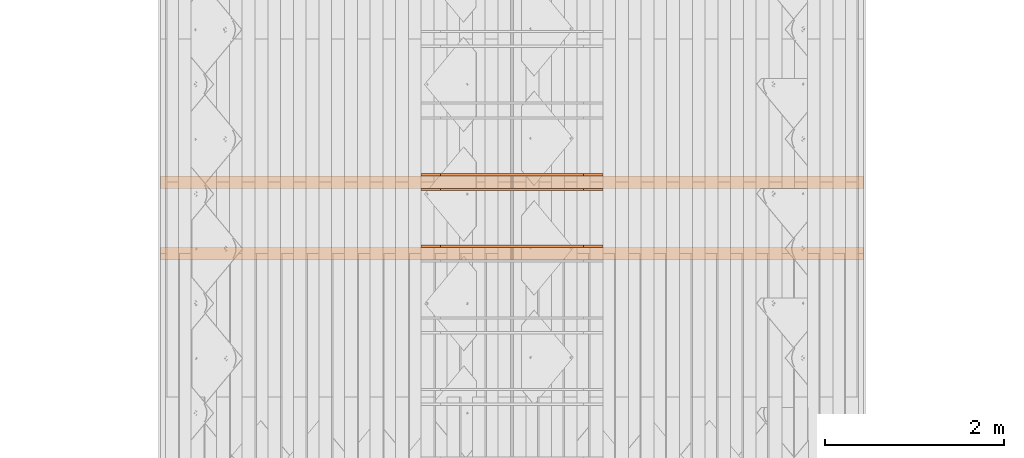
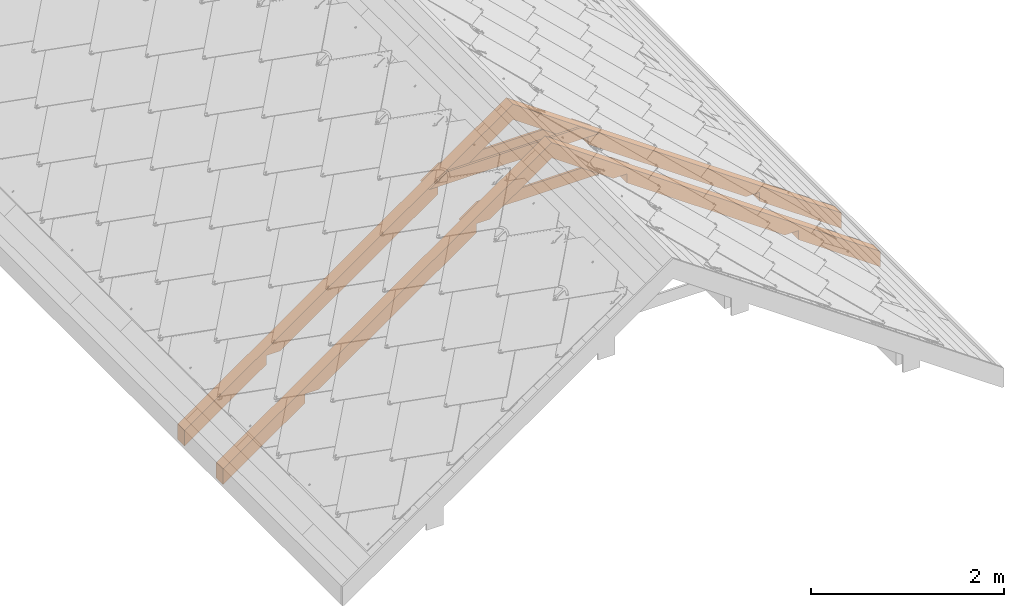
# One storey, part 34 of 151: 5 proxies, 1 element without a shape of its own.
"""IFC2X3 building model written with IfcOpenShell, lengths in millimetres."""

from ifc_helpers import new_model, entity, si_unit, converted_unit, derived_unit, direction, frame, origin, place, context, subcontext, project, spatial, polyline, outline, extrude, source, transform, mapped, material, type_object, type_shapes, element, aggregate, save


model = new_model("IFC2X3")

# Units and contexts
model_context = context("Model", 3, precision=0.01, world=origin(), true_north=direction((6.12303176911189e-17, 1.0)))
body_context = subcontext(model_context, "Body", "Model", "MODEL_VIEW")
ifc_project = project(units=[si_unit("LENGTHUNIT", "METRE", prefix="MILLI"), si_unit("AREAUNIT", "SQUARE_METRE"), si_unit("VOLUMEUNIT", "CUBIC_METRE"), converted_unit("PLANEANGLEUNIT", "DEGREE", entity("IfcRatioMeasure", 0.0174532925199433), si_unit("PLANEANGLEUNIT", "RADIAN"), dimensions=[0, 0, 0, 0, 0, 0, 0]), si_unit("MASSUNIT", "GRAM", prefix="KILO"), derived_unit("MASSDENSITYUNIT", [(si_unit("MASSUNIT", "GRAM", prefix="KILO"), 1), (si_unit("LENGTHUNIT", "METRE"), -3)]), si_unit("TIMEUNIT", "SECOND"), si_unit("FREQUENCYUNIT", "HERTZ"), si_unit("THERMODYNAMICTEMPERATUREUNIT", "DEGREE_CELSIUS"), derived_unit("THERMALTRANSMITTANCEUNIT", [(si_unit("MASSUNIT", "GRAM", prefix="KILO"), 1), (si_unit("THERMODYNAMICTEMPERATUREUNIT", "KELVIN"), -1), (si_unit("TIMEUNIT", "SECOND"), -3)]), derived_unit("VOLUMETRICFLOWRATEUNIT", [(si_unit("LENGTHUNIT", "METRE"), 3), (si_unit("TIMEUNIT", "SECOND"), -1)]), si_unit("ELECTRICCURRENTUNIT", "AMPERE"), si_unit("ELECTRICVOLTAGEUNIT", "VOLT"), si_unit("POWERUNIT", "WATT"), si_unit("FORCEUNIT", "NEWTON", prefix="KILO"), si_unit("ILLUMINANCEUNIT", "LUX"), si_unit("LUMINOUSFLUXUNIT", "LUMEN"), si_unit("LUMINOUSINTENSITYUNIT", "CANDELA"), derived_unit("USERDEFINED", [(si_unit("MASSUNIT", "GRAM", prefix="KILO"), -1), (si_unit("LENGTHUNIT", "METRE"), -2), (si_unit("TIMEUNIT", "SECOND"), 3), (si_unit("LUMINOUSFLUXUNIT", "LUMEN"), 1)]), derived_unit("LINEARVELOCITYUNIT", [(si_unit("LENGTHUNIT", "METRE"), 1), (si_unit("TIMEUNIT", "SECOND"), -1)]), si_unit("PRESSUREUNIT", "PASCAL"), derived_unit("USERDEFINED", [(si_unit("LENGTHUNIT", "METRE"), -2), (si_unit("MASSUNIT", "GRAM", prefix="KILO"), 1), (si_unit("TIMEUNIT", "SECOND"), -2)])], contexts=[model_context])

# Site, building, storey
site_placement = place(None, origin())
site = spatial("IfcSite", under=ifc_project, at=site_placement, Name="Default", CompositionType="ELEMENT")
building_placement = place(site_placement, origin())
building = spatial("IfcBuilding", under=site, at=building_placement, CompositionType="ELEMENT")
storey_placement = place(building_placement, origin())
storey = spatial("IfcBuildingStorey", under=building, at=storey_placement, Name="Level 1", CompositionType="ELEMENT", Elevation=0.0)

# Assembly, proxies
assembly_placement = place(storey_placement, origin())
assembly = element("IfcElementAssembly", 1, at=assembly_placement, inside=storey, Name="Structural Framing Assembly:Roof Construction Assembly", ObjectType="Structural Framing Assembly:Roof Construction Assembly", AssemblyPlace="NOTDEFINED", PredefinedType="USERDEFINED")
ifc_material = material(Name="Wood - Generic - Wood For Showcase")
building_element_proxy_type_1 = type_object("IfcBuildingElementProxyType", Name="Structural Framing 1", PredefinedType="NOTDEFINED", material=ifc_material)
shared_shape_1 = source(origin(), body_context, "Body", "SweptSolid", [
    extrude(outline(polyline([(-929.245683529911, -1327.10037070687), (3863.25950492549, -1327.10037070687), (3975.29271103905, -1167.10037070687), (2778.93361405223, -1167.10037070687), (2713.54351952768, -1260.48710386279), (2580.17344271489, -1167.10037070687), (278.933614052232, -1167.10037070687), (213.543519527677, -1260.48710386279), (80.1734427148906, -1167.10037070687), (-817.212477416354, -1167.10037070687), (-1124.13653843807, -323.833443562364), (-1257.50661525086, -230.446710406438), (-1192.11652072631, -137.059977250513), (-1979.18689675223, 2025.39810840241), (-2112.55697356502, 2118.78484155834), (-2047.16687904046, 2212.17157471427), (-2456.34578886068, 3336.38138996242), (-2568.37899497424, 3176.38138996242), (-929.245683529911, -1327.10037070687)])), frame((1206.77890726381, 3785.55080214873, 1179.90959070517), z_axis=(0.0, 1.0, 0.0), x_axis=(0.819152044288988, 0.0, -0.573576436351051)), (0.0, 0.0, 1.0), 140.0),
])
type_shapes(building_element_proxy_type_1, [shared_shape_1])
proxy_1_placement = place(assembly_placement, frame((57.4878711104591, -7200.0, 0.0)))
proxy_1 = element("IfcBuildingElementProxy", 2, at=proxy_1_placement, type_object=building_element_proxy_type_1, material=ifc_material, Name="Structural Framing 10:Structural Framing 1", ObjectType="Structural Framing 10:Structural Framing 1", context=body_context, shape_type="MappedRepresentation", body=[
    mapped(shared_shape_1, transform((0.0, 0.0, 0.0), scale=1.0)),
])
building_element_proxy_type_2 = type_object("IfcBuildingElementProxyType", Name="Structural Framing 1", PredefinedType="NOTDEFINED", material=ifc_material)
shared_shape_2 = source(origin(), body_context, "Body", "SweptSolid", [
    extrude(outline(polyline([(-929.24568352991, -1327.10037070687), (3863.25950492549, -1327.10037070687), (3975.29271103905, -1167.10037070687), (2778.93361405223, -1167.10037070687), (2713.54351952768, -1260.48710386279), (2580.17344271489, -1167.10037070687), (278.933614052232, -1167.10037070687), (213.543519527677, -1260.48710386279), (80.1734427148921, -1167.10037070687), (-817.212477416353, -1167.10037070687), (-1124.13653843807, -323.833443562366), (-1257.50661525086, -230.446710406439), (-1192.11652072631, -137.059977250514), (-1979.18689675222, 2025.39810840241), (-2112.55697356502, 2118.78484155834), (-2047.16687904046, 2212.17157471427), (-2456.34578886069, 3336.38138996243), (-2568.37899497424, 3176.38138996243), (-929.24568352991, -1327.10037070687)])), frame((1206.77890726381, 3785.55080214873, 1179.90959070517), z_axis=(0.0, 1.0, 0.0), x_axis=(0.819152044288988, 0.0, -0.573576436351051)), (0.0, 0.0, 1.0), 140.0),
])
type_shapes(building_element_proxy_type_2, [shared_shape_2])
proxy_2_placement = place(assembly_placement, frame((57.487871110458, -8000.0, 0.0)))
proxy_2 = element("IfcBuildingElementProxy", 3, at=proxy_2_placement, type_object=building_element_proxy_type_2, material=ifc_material, Name="Structural Framing 11:Structural Framing 1", ObjectType="Structural Framing 11:Structural Framing 1", context=body_context, shape_type="MappedRepresentation", body=[
    mapped(shared_shape_2, transform((0.0, 0.0, 0.0), scale=1.0)),
])
building_element_proxy_type_3 = type_object("IfcBuildingElementProxyType", Name="Structural Framing 296", PredefinedType="NOTDEFINED", material=ifc_material)
shared_shape_3 = source(origin(), body_context, "Body", "SweptSolid", [
    extrude(outline(polyline([(-1014.04699829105, -75.0), (1014.04699829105, -75.0), (799.824797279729, 75.0), (-799.824797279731, 75.0), (-1014.04699829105, -75.0)])), frame((1206.77890726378, 3760.55080214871, 2164.95664769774), z_axis=(0.0, 1.0, 0.0), x_axis=(-1.0, 0.0, 0.0)), (0.0, 0.0, 1.0), 24.9999999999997),
])
type_shapes(building_element_proxy_type_3, [shared_shape_3])
proxy_3_placement = place(assembly_placement, frame((57.4878711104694, -7200.0, 0.0)))
proxy_3 = element("IfcBuildingElementProxy", 4, at=proxy_3_placement, type_object=building_element_proxy_type_3, material=ifc_material, Name="Structural Framing 313:Structural Framing 296", ObjectType="Structural Framing 313:Structural Framing 296", context=body_context, shape_type="MappedRepresentation", body=[
    mapped(shared_shape_3, transform((0.0, 0.0, 0.0), scale=1.0)),
])
building_element_proxy_type_4 = type_object("IfcBuildingElementProxyType", Name="Structural Framing 296", PredefinedType="NOTDEFINED", material=ifc_material)
shared_shape_4 = source(origin(), body_context, "Body", "SweptSolid", [
    extrude(outline(polyline([(-1014.04699829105, -75.0), (1014.04699829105, -75.0), (799.824797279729, 75.0), (-799.824797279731, 75.0), (-1014.04699829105, -75.0)])), frame((1206.77890726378, 2325.55080214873, 2164.95664769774), z_axis=(0.0, 1.0, 0.0), x_axis=(-1.0, 0.0, 0.0)), (0.0, 0.0, 1.0), 25.0),
])
type_shapes(building_element_proxy_type_4, [shared_shape_4])
proxy_4_placement = place(assembly_placement, frame((57.4878711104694, -5600.0, 0.0)))
proxy_4 = element("IfcBuildingElementProxy", 5, at=proxy_4_placement, type_object=building_element_proxy_type_4, material=ifc_material, Name="Structural Framing 314:Structural Framing 296", ObjectType="Structural Framing 314:Structural Framing 296", context=body_context, shape_type="MappedRepresentation", body=[
    mapped(shared_shape_4, transform((0.0, 0.0, 0.0), scale=1.0)),
])
building_element_proxy_type_5 = type_object("IfcBuildingElementProxyType", Name="Structural Framing 296", PredefinedType="NOTDEFINED", material=ifc_material)
shared_shape_5 = source(origin(), body_context, "Body", "SweptSolid", [
    extrude(outline(polyline([(-1014.04699829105, -75.0), (1014.04699829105, -75.0), (799.824797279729, 75.0), (-799.824797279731, 75.0), (-1014.04699829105, -75.0)])), frame((1206.77890726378, 2325.55080214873, 2164.95664769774), z_axis=(0.0, 1.0, 0.0), x_axis=(-1.0, 0.0, 0.0)), (0.0, 0.0, 1.0), 25.0),
])
type_shapes(building_element_proxy_type_5, [shared_shape_5])
proxy_5_placement = place(assembly_placement, frame((57.4878711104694, -6400.0, 0.0)))
proxy_5 = element("IfcBuildingElementProxy", 6, at=proxy_5_placement, type_object=building_element_proxy_type_5, material=ifc_material, Name="Structural Framing 316:Structural Framing 296", ObjectType="Structural Framing 316:Structural Framing 296", context=body_context, shape_type="MappedRepresentation", body=[
    mapped(shared_shape_5, transform((0.0, 0.0, 0.0), scale=1.0)),
])
aggregate(assembly, [proxy_1, proxy_2, proxy_3, proxy_4, proxy_5])

save(model, "model.ifc")
